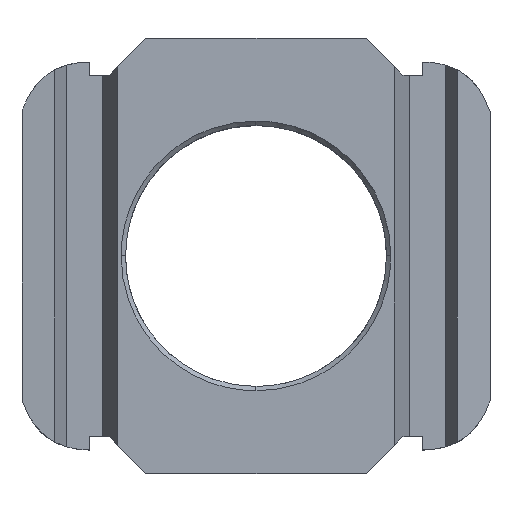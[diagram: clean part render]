
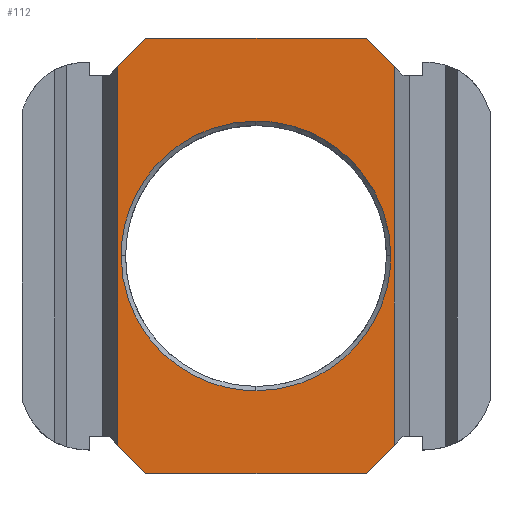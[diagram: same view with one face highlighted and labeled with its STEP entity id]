
A CAD part, top view. The second image highlights one B-rep face of the part: STEP entity #112.
In plain terms, the highlighted planar face has unit normal (0, 0, 1).
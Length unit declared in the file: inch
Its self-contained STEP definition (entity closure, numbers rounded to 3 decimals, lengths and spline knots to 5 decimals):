
#112=ADVANCED_FACE('',(#240,#241),#242,.T.);
#240=FACE_OUTER_BOUND('',#451,.T.);
#241=FACE_BOUND('',#452,.T.);
#242=PLANE('',#453);
#451=EDGE_LOOP('',(#2993,#2994,#2995,#2996,#2997,#2998,#2999,#3000));
#452=EDGE_LOOP('',(#3001,#3002,#3003,#3004));
#453=AXIS2_PLACEMENT_3D('',#3005,#3006,#3007);
#2993=ORIENTED_EDGE('',*,*,#3315,.T.);
#2994=ORIENTED_EDGE('',*,*,#3323,.F.);
#2995=ORIENTED_EDGE('',*,*,#3324,.T.);
#2996=ORIENTED_EDGE('',*,*,#3325,.F.);
#2997=ORIENTED_EDGE('',*,*,#3326,.T.);
#2998=ORIENTED_EDGE('',*,*,#3327,.T.);
#2999=ORIENTED_EDGE('',*,*,#3328,.T.);
#3000=ORIENTED_EDGE('',*,*,#3305,.T.);
#3001=ORIENTED_EDGE('',*,*,#3279,.F.);
#3002=ORIENTED_EDGE('',*,*,#3329,.F.);
#3003=ORIENTED_EDGE('',*,*,#3330,.F.);
#3004=ORIENTED_EDGE('',*,*,#3331,.F.);
#3005=CARTESIAN_POINT('',(0.32027,1.24999,0.375));
#3006=DIRECTION('',(0.0,0.0,1.0));
#3007=DIRECTION('',(-1.0,0.0,0.0));
#3279=EDGE_CURVE('',#3463,#3465,#3466,.T.);
#3305=EDGE_CURVE('',#3509,#3507,#3510,.T.);
#3315=EDGE_CURVE('',#3507,#3523,#3526,.T.);
#3323=EDGE_CURVE('',#3537,#3523,#3538,.T.);
#3324=EDGE_CURVE('',#3537,#3539,#3540,.T.);
#3325=EDGE_CURVE('',#3541,#3539,#3542,.T.);
#3326=EDGE_CURVE('',#3541,#3543,#3544,.T.);
#3327=EDGE_CURVE('',#3543,#3545,#3546,.T.);
#3328=EDGE_CURVE('',#3545,#3509,#3547,.T.);
#3329=EDGE_CURVE('',#3548,#3463,#3549,.T.);
#3330=EDGE_CURVE('',#3550,#3548,#3551,.T.);
#3331=EDGE_CURVE('',#3465,#3550,#3552,.T.);
#3463=VERTEX_POINT('',#3804);
#3465=VERTEX_POINT('',#3807);
#3466=B_SPLINE_CURVE_WITH_KNOTS('',3,(#3808,#3809,#3810,#3811,#3812,#3813,#3814,#3815,#3816,#3817,#3818,#3819,#3820,#3821),.UNSPECIFIED.,.F.,.F.,(4,2,2,2,2,2,4),(0.0,0.08057,0.15874,0.30284,0.31025,0.45762,0.60569),.UNSPECIFIED.);
#3507=VERTEX_POINT('',#3914);
#3509=VERTEX_POINT('',#3917);
#3510=LINE('',#3918,#3919);
#3523=VERTEX_POINT('',#3938);
#3526=LINE('',#3942,#3943);
#3537=VERTEX_POINT('',#3959);
#3538=LINE('',#3960,#3961);
#3539=VERTEX_POINT('',#3962);
#3540=LINE('',#3963,#3964);
#3541=VERTEX_POINT('',#3965);
#3542=LINE('',#3966,#3967);
#3543=VERTEX_POINT('',#3968);
#3544=LINE('',#3969,#3970);
#3545=VERTEX_POINT('',#3971);
#3546=LINE('',#3972,#3973);
#3547=LINE('',#3974,#3975);
#3548=VERTEX_POINT('',#3976);
#3549=B_SPLINE_CURVE_WITH_KNOTS('',3,(#3977,#3978,#3979,#3980,#3981,#3982,#3983,#3984,#3985,#3986,#3987,#3988,#3989,#3990),.UNSPECIFIED.,.F.,.F.,(4,2,2,2,2,2,4),(0.0,0.14806,0.29542,0.30248,0.44694,0.59968,0.60495),.UNSPECIFIED.);
#3550=VERTEX_POINT('',#3991);
#3551=B_SPLINE_CURVE_WITH_KNOTS('',3,(#3992,#3993,#3994,#3995,#3996,#3997,#3998,#3999,#4000,#4001,#4002,#4003),.UNSPECIFIED.,.F.,.F.,(4,2,2,2,2,4),(0.0,0.15079,0.26365,0.30243,0.45406,0.60485),.UNSPECIFIED.);
#3552=B_SPLINE_CURVE_WITH_KNOTS('',3,(#4004,#4005,#4006,#4007,#4008,#4009,#4010,#4011,#4012,#4013,#4014,#4015,#4016,#4017),.UNSPECIFIED.,.F.,.F.,(4,2,2,2,2,2,4),(0.0,0.00527,0.15801,0.30248,0.30952,0.45689,0.60495),.UNSPECIFIED.);
#3804=CARTESIAN_POINT('',(0.70777,0.62493,0.375));
#3807=CARTESIAN_POINT('',(0.32027,1.01243,0.375));
#3808=CARTESIAN_POINT('',(0.70777,0.62493,0.375));
#3809=CARTESIAN_POINT('',(0.70777,0.65178,0.375));
#3810=CARTESIAN_POINT('',(0.705,0.67878,0.375));
#3811=CARTESIAN_POINT('',(0.69411,0.73057,0.375));
#3812=CARTESIAN_POINT('',(0.6861,0.75565,0.375));
#3813=CARTESIAN_POINT('',(0.65651,0.82357,0.375));
#3814=CARTESIAN_POINT('',(0.62848,0.86468,0.375));
#3815=CARTESIAN_POINT('',(0.59273,0.90048,0.375));
#3816=CARTESIAN_POINT('',(0.59097,0.90221,0.375));
#3817=CARTESIAN_POINT('',(0.55383,0.93802,0.375));
#3818=CARTESIAN_POINT('',(0.51116,0.9658,0.375));
#3819=CARTESIAN_POINT('',(0.41988,1.00276,0.375));
#3820=CARTESIAN_POINT('',(0.36963,1.01243,0.375));
#3821=CARTESIAN_POINT('',(0.32027,1.01243,0.375));
#3914=CARTESIAN_POINT('',(0.63688,-0.00001,0.375));
#3917=CARTESIAN_POINT('',(0.00366,-0.00001,0.375));
#3918=CARTESIAN_POINT('',(-0.07708,-0.00001,0.375));
#3919=VECTOR('',#4710,1.0);
#3938=CARTESIAN_POINT('',(0.71762,0.08074,0.375));
#3942=CARTESIAN_POINT('',(0.89664,0.25976,0.375));
#3943=VECTOR('',#4718,1.0);
#3959=CARTESIAN_POINT('',(0.71762,1.16913,0.375));
#3960=CARTESIAN_POINT('',(0.71762,1.24999,0.375));
#3961=VECTOR('',#4724,1.);
#3962=CARTESIAN_POINT('',(0.63676,1.24999,0.375));
#3963=CARTESIAN_POINT('',(0.58411,1.30264,0.375));
#3964=VECTOR('',#4725,1.);
#3965=CARTESIAN_POINT('',(0.00378,1.24999,0.375));
#3966=CARTESIAN_POINT('',(-0.07708,1.24999,0.375));
#3967=VECTOR('',#4726,1.0);
#3968=CARTESIAN_POINT('',(-0.07708,1.16913,0.375));
#3969=CARTESIAN_POINT('',(0.05643,1.30264,0.375));
#3970=VECTOR('',#4727,1.);
#3971=CARTESIAN_POINT('',(-0.07708,0.08074,0.375));
#3972=CARTESIAN_POINT('',(-0.07708,1.24999,0.375));
#3973=VECTOR('',#4728,1.);
#3974=CARTESIAN_POINT('',(-0.2561,0.25976,0.375));
#3975=VECTOR('',#4729,1.);
#3976=CARTESIAN_POINT('',(0.32027,0.23743,0.375));
#3977=CARTESIAN_POINT('',(0.32027,0.23743,0.375));
#3978=CARTESIAN_POINT('',(0.36962,0.23743,0.375));
#3979=CARTESIAN_POINT('',(0.41988,0.24709,0.375));
#3980=CARTESIAN_POINT('',(0.51115,0.28405,0.375));
#3981=CARTESIAN_POINT('',(0.55382,0.31183,0.375));
#3982=CARTESIAN_POINT('',(0.59087,0.34755,0.375));
#3983=CARTESIAN_POINT('',(0.59255,0.3492,0.375));
#3984=CARTESIAN_POINT('',(0.62833,0.38497,0.375));
#3985=CARTESIAN_POINT('',(0.65646,0.42616,0.375));
#3986=CARTESIAN_POINT('',(0.69603,0.51699,0.375));
#3987=CARTESIAN_POINT('',(0.70706,0.56875,0.375));
#3988=CARTESIAN_POINT('',(0.70776,0.62141,0.375));
#3989=CARTESIAN_POINT('',(0.70777,0.62317,0.375));
#3990=CARTESIAN_POINT('',(0.70777,0.62493,0.375));
#3991=CARTESIAN_POINT('',(-0.06723,0.62493,0.375));
#3992=CARTESIAN_POINT('',(-0.06723,0.62493,0.375));
#3993=CARTESIAN_POINT('',(-0.06723,0.57466,0.375));
#3994=CARTESIAN_POINT('',(-0.05719,0.52345,0.375));
#3995=CARTESIAN_POINT('',(-0.02361,0.44223,0.375));
#3996=CARTESIAN_POINT('',(-0.00383,0.40912,0.375));
#3997=CARTESIAN_POINT('',(0.0284,0.3697,0.375));
#3998=CARTESIAN_POINT('',(0.03713,0.36006,0.375));
#3999=CARTESIAN_POINT('',(0.08201,0.31518,0.375));
#4000=CARTESIAN_POINT('',(0.12563,0.28598,0.375));
#4001=CARTESIAN_POINT('',(0.21879,0.24747,0.375));
#4002=CARTESIAN_POINT('',(0.27001,0.23743,0.375));
#4003=CARTESIAN_POINT('',(0.32027,0.23743,0.375));
#4004=CARTESIAN_POINT('',(0.32027,1.01243,0.375));
#4005=CARTESIAN_POINT('',(0.31852,1.01243,0.375));
#4006=CARTESIAN_POINT('',(0.31676,1.01241,0.375));
#4007=CARTESIAN_POINT('',(0.26409,1.01171,0.375));
#4008=CARTESIAN_POINT('',(0.21234,1.00068,0.375));
#4009=CARTESIAN_POINT('',(0.12151,0.96112,0.375));
#4010=CARTESIAN_POINT('',(0.08031,0.93299,0.375));
#4011=CARTESIAN_POINT('',(0.04455,0.89721,0.375));
#4012=CARTESIAN_POINT('',(0.0429,0.89553,0.375));
#4013=CARTESIAN_POINT('',(0.00718,0.85848,0.375));
#4014=CARTESIAN_POINT('',(-0.0206,0.81582,0.375));
#4015=CARTESIAN_POINT('',(-0.05756,0.72454,0.375));
#4016=CARTESIAN_POINT('',(-0.06723,0.67428,0.375));
#4017=CARTESIAN_POINT('',(-0.06723,0.62493,0.375));
#4710=DIRECTION('',(1.0,0.0,0.0));
#4718=DIRECTION('',(0.707,0.707,0.0));
#4724=DIRECTION('',(0.0,-1.0,0.0));
#4725=DIRECTION('',(-0.707,0.707,0.0));
#4726=DIRECTION('',(1.0,0.0,0.0));
#4727=DIRECTION('',(-0.707,-0.707,0.0));
#4728=DIRECTION('',(0.0,-1.0,0.0));
#4729=DIRECTION('',(0.707,-0.707,0.0));
